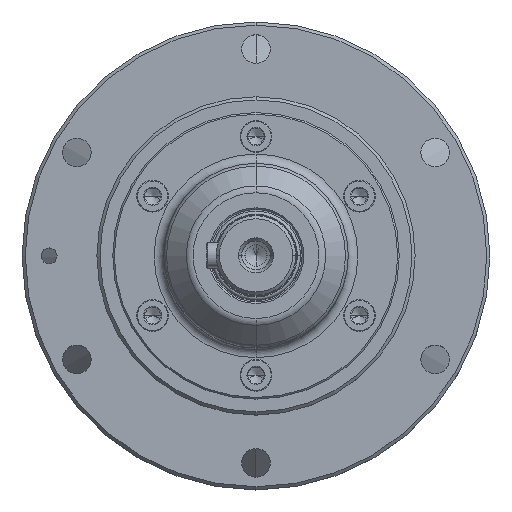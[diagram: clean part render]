
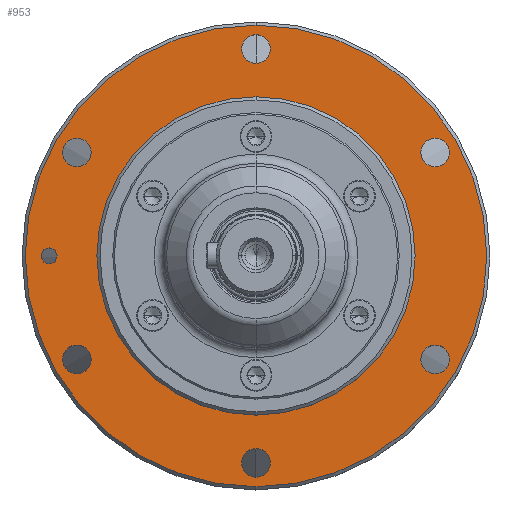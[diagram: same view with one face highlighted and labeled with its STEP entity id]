
A CAD part, top view. The second image highlights one B-rep face of the part: STEP entity #953.
In plain terms, the highlighted planar face has unit normal (0, 0, 1).
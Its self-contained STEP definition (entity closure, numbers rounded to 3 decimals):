
#212=CARTESIAN_POINT('',(56.292,32.5,147.));
#213=DIRECTION('',(0.,0.,1.));
#214=DIRECTION('',(-1.,0.,0.));
#215=AXIS2_PLACEMENT_3D('',#212,#213,#214);
#217=CARTESIAN_POINT('',(56.292,32.5,147.));
#218=DIRECTION('',(0.,0.,1.));
#219=DIRECTION('',(1.,0.,0.));
#220=AXIS2_PLACEMENT_3D('',#217,#218,#219);
#222=CARTESIAN_POINT('',(56.292,-32.5,147.));
#223=DIRECTION('',(0.,0.,1.));
#224=DIRECTION('',(-0.5,0.866,0.));
#225=AXIS2_PLACEMENT_3D('',#222,#223,#224);
#227=CARTESIAN_POINT('',(56.292,-32.5,147.));
#228=DIRECTION('',(0.,0.,1.));
#229=DIRECTION('',(0.5,-0.866,0.));
#230=AXIS2_PLACEMENT_3D('',#227,#228,#229);
#232=CARTESIAN_POINT('',(0.,-65.,147.));
#233=DIRECTION('',(0.,0.,1.));
#234=DIRECTION('',(0.5,0.866,0.));
#235=AXIS2_PLACEMENT_3D('',#232,#233,#234);
#237=CARTESIAN_POINT('',(0.,-65.,147.));
#238=DIRECTION('',(0.,0.,1.));
#239=DIRECTION('',(-0.5,-0.866,0.));
#240=AXIS2_PLACEMENT_3D('',#237,#238,#239);
#242=CARTESIAN_POINT('',(-56.292,-32.5,147.));
#243=DIRECTION('',(0.,0.,1.));
#244=DIRECTION('',(1.,0.,0.));
#245=AXIS2_PLACEMENT_3D('',#242,#243,#244);
#247=CARTESIAN_POINT('',(-56.292,-32.5,147.));
#248=DIRECTION('',(0.,0.,1.));
#249=DIRECTION('',(-1.,0.,0.));
#250=AXIS2_PLACEMENT_3D('',#247,#248,#249);
#252=CARTESIAN_POINT('',(-56.292,32.5,147.));
#253=DIRECTION('',(0.,0.,1.));
#254=DIRECTION('',(0.5,-0.866,0.));
#255=AXIS2_PLACEMENT_3D('',#252,#253,#254);
#257=CARTESIAN_POINT('',(-56.292,32.5,147.));
#258=DIRECTION('',(0.,0.,1.));
#259=DIRECTION('',(-0.5,0.866,0.));
#260=AXIS2_PLACEMENT_3D('',#257,#258,#259);
#262=CARTESIAN_POINT('',(0.,65.,147.));
#263=DIRECTION('',(0.,0.,1.));
#264=DIRECTION('',(-0.5,-0.866,0.));
#265=AXIS2_PLACEMENT_3D('',#262,#263,#264);
#267=CARTESIAN_POINT('',(0.,65.,147.));
#268=DIRECTION('',(0.,0.,1.));
#269=DIRECTION('',(0.5,0.866,0.));
#270=AXIS2_PLACEMENT_3D('',#267,#268,#269);
#272=CARTESIAN_POINT('',(0.,0.,147.));
#273=DIRECTION('',(0.,0.,1.));
#274=DIRECTION('',(0.,1.,0.));
#275=AXIS2_PLACEMENT_3D('',#272,#273,#274);
#277=CARTESIAN_POINT('',(0.,0.,147.));
#278=DIRECTION('',(0.,0.,1.));
#279=DIRECTION('',(0.,-1.,0.));
#280=AXIS2_PLACEMENT_3D('',#277,#278,#279);
#282=CARTESIAN_POINT('',(-65.,0.,147.));
#283=DIRECTION('',(0.,0.,1.));
#284=DIRECTION('',(-1.,0.,0.));
#285=AXIS2_PLACEMENT_3D('',#282,#283,#284);
#287=CARTESIAN_POINT('',(-65.,0.,147.));
#288=DIRECTION('',(0.,0.,1.));
#289=DIRECTION('',(1.,0.,0.));
#290=AXIS2_PLACEMENT_3D('',#287,#288,#289);
#297=CARTESIAN_POINT('',(0.,0.,147.));
#298=DIRECTION('',(0.,0.,-1.));
#299=DIRECTION('',(0.,1.,0.));
#300=AXIS2_PLACEMENT_3D('',#297,#298,#299);
#399=CARTESIAN_POINT('',(0.,0.,147.));
#400=DIRECTION('',(0.,0.,1.));
#401=DIRECTION('',(0.,1.,0.));
#402=AXIS2_PLACEMENT_3D('',#399,#400,#401);
#508=CARTESIAN_POINT('',(51.792,32.5,147.));
#509=VERTEX_POINT('',#508);
#510=CARTESIAN_POINT('',(60.792,32.5,147.));
#511=VERTEX_POINT('',#510);
#516=CARTESIAN_POINT('',(54.042,-28.603,147.));
#517=VERTEX_POINT('',#516);
#518=CARTESIAN_POINT('',(58.542,-36.397,147.));
#519=VERTEX_POINT('',#518);
#524=CARTESIAN_POINT('',(2.25,-61.103,147.));
#525=VERTEX_POINT('',#524);
#526=CARTESIAN_POINT('',(-2.25,-68.897,147.));
#527=VERTEX_POINT('',#526);
#532=CARTESIAN_POINT('',(-51.792,-32.5,147.));
#533=VERTEX_POINT('',#532);
#534=CARTESIAN_POINT('',(-60.792,-32.5,147.));
#535=VERTEX_POINT('',#534);
#540=CARTESIAN_POINT('',(-54.042,28.603,147.));
#541=VERTEX_POINT('',#540);
#542=CARTESIAN_POINT('',(-58.542,36.397,147.));
#543=VERTEX_POINT('',#542);
#548=CARTESIAN_POINT('',(-2.25,61.103,147.));
#549=VERTEX_POINT('',#548);
#550=CARTESIAN_POINT('',(2.25,68.897,147.));
#551=VERTEX_POINT('',#550);
#588=CARTESIAN_POINT('',(0.,50.,147.));
#589=CARTESIAN_POINT('',(0.,-50.,147.));
#590=VERTEX_POINT('',#588);
#591=VERTEX_POINT('',#589);
#592=CARTESIAN_POINT('',(0.,72.5,147.));
#593=CARTESIAN_POINT('',(0.,-72.5,147.));
#594=VERTEX_POINT('',#592);
#595=VERTEX_POINT('',#593);
#636=CARTESIAN_POINT('',(-67.5,0.,147.));
#637=CARTESIAN_POINT('',(-62.5,0.,147.));
#638=VERTEX_POINT('',#636);
#639=VERTEX_POINT('',#637);
#896=CARTESIAN_POINT('',(0.,0.,147.));
#897=DIRECTION('',(0.,0.,-1.));
#898=DIRECTION('',(0.,-1.,0.));
#899=AXIS2_PLACEMENT_3D('',#896,#897,#898);
#900=PLANE('',#899);
#902=ORIENTED_EDGE('',*,*,#901,.F.);
#904=ORIENTED_EDGE('',*,*,#903,.F.);
#905=EDGE_LOOP('',(#902,#904));
#906=FACE_OUTER_BOUND('',#905,.F.);
#907=ORIENTED_EDGE('',*,*,#876,.T.);
#908=ORIENTED_EDGE('',*,*,#890,.T.);
#909=EDGE_LOOP('',(#907,#908));
#910=FACE_BOUND('',#909,.F.);
#912=ORIENTED_EDGE('',*,*,#911,.T.);
#914=ORIENTED_EDGE('',*,*,#913,.T.);
#915=EDGE_LOOP('',(#912,#914));
#916=FACE_BOUND('',#915,.F.);
#918=ORIENTED_EDGE('',*,*,#917,.T.);
#920=ORIENTED_EDGE('',*,*,#919,.T.);
#921=EDGE_LOOP('',(#918,#920));
#922=FACE_BOUND('',#921,.F.);
#924=ORIENTED_EDGE('',*,*,#923,.T.);
#926=ORIENTED_EDGE('',*,*,#925,.T.);
#927=EDGE_LOOP('',(#924,#926));
#928=FACE_BOUND('',#927,.F.);
#930=ORIENTED_EDGE('',*,*,#929,.T.);
#932=ORIENTED_EDGE('',*,*,#931,.T.);
#933=EDGE_LOOP('',(#930,#932));
#934=FACE_BOUND('',#933,.F.);
#936=ORIENTED_EDGE('',*,*,#935,.T.);
#938=ORIENTED_EDGE('',*,*,#937,.T.);
#939=EDGE_LOOP('',(#936,#938));
#940=FACE_BOUND('',#939,.F.);
#942=ORIENTED_EDGE('',*,*,#941,.F.);
#944=ORIENTED_EDGE('',*,*,#943,.T.);
#945=EDGE_LOOP('',(#942,#944));
#946=FACE_BOUND('',#945,.F.);
#948=ORIENTED_EDGE('',*,*,#947,.T.);
#950=ORIENTED_EDGE('',*,*,#949,.T.);
#951=EDGE_LOOP('',(#948,#950));
#952=FACE_BOUND('',#951,.F.);
#216=CIRCLE('',#215,4.5);
#221=CIRCLE('',#220,4.5);
#226=CIRCLE('',#225,4.5);
#231=CIRCLE('',#230,4.5);
#236=CIRCLE('',#235,4.5);
#241=CIRCLE('',#240,4.5);
#246=CIRCLE('',#245,4.5);
#251=CIRCLE('',#250,4.5);
#256=CIRCLE('',#255,4.5);
#261=CIRCLE('',#260,4.5);
#266=CIRCLE('',#265,4.5);
#271=CIRCLE('',#270,4.5);
#276=CIRCLE('',#275,72.5);
#281=CIRCLE('',#280,72.5);
#286=CIRCLE('',#285,2.5);
#291=CIRCLE('',#290,2.5);
#301=CIRCLE('',#300,50.);
#403=CIRCLE('',#402,50.);
#876=EDGE_CURVE('',#509,#511,#216,.T.);
#890=EDGE_CURVE('',#511,#509,#221,.T.);
#901=EDGE_CURVE('',#594,#595,#276,.T.);
#903=EDGE_CURVE('',#595,#594,#281,.T.);
#911=EDGE_CURVE('',#517,#519,#226,.T.);
#913=EDGE_CURVE('',#519,#517,#231,.T.);
#917=EDGE_CURVE('',#525,#527,#236,.T.);
#919=EDGE_CURVE('',#527,#525,#241,.T.);
#923=EDGE_CURVE('',#533,#535,#246,.T.);
#925=EDGE_CURVE('',#535,#533,#251,.T.);
#929=EDGE_CURVE('',#541,#543,#256,.T.);
#931=EDGE_CURVE('',#543,#541,#261,.T.);
#935=EDGE_CURVE('',#549,#551,#266,.T.);
#937=EDGE_CURVE('',#551,#549,#271,.T.);
#941=EDGE_CURVE('',#590,#591,#301,.T.);
#943=EDGE_CURVE('',#590,#591,#403,.T.);
#947=EDGE_CURVE('',#638,#639,#286,.T.);
#949=EDGE_CURVE('',#639,#638,#291,.T.);
#953=ADVANCED_FACE('',(#906,#910,#916,#922,#928,#934,#940,#946,#952),#900,.F.);
